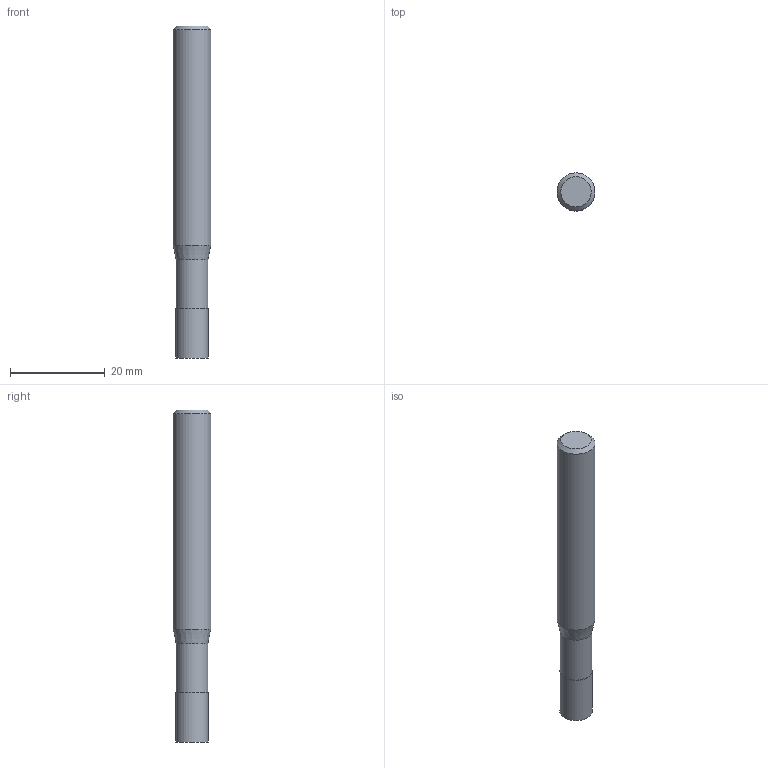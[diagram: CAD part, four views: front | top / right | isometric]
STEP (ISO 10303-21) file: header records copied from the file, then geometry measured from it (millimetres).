
FILE_DESCRIPTION((''),'2;1');
FILE_NAME('C:\Users\nsx150\AppData\Local\Temp\Mastercam 2021\EUJSUNXURU\TEMP.step','2021-04-22T10:29:05',(''),(''),'STEP Write','Mastercam 2021 ... CNC Software, Inc.','');
FILE_SCHEMA(('AUTOMOTIVE_DESIGN'));
Length unit declared in the file: millimetre
Products named in the file (1): None
Bounding box: 8 x 8 x 70 mm (x, y, z)
Volume: 3199 mm3; surface area: 1824.3 mm2
Topology: 2 solids, 2 shells, 9 faces, 12 edges, 7 vertices
Faces by surface type: plane 4, cylinder 3, cone 2
Full cylindrical faces by diameter (mm): 6.7 x1, 6.9 x1, 8 x1
Entity records: 211 total; most frequent: DIRECTION 36, CARTESIAN_POINT 25, AXIS2_PLACEMENT_3D 18, ORIENTED_EDGE 14, EDGE_LOOP 14, STYLED_ITEM 12, ADVANCED_FACE 9, FACE_BOUND 8
